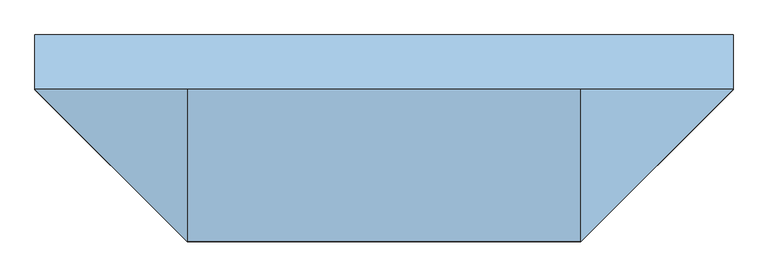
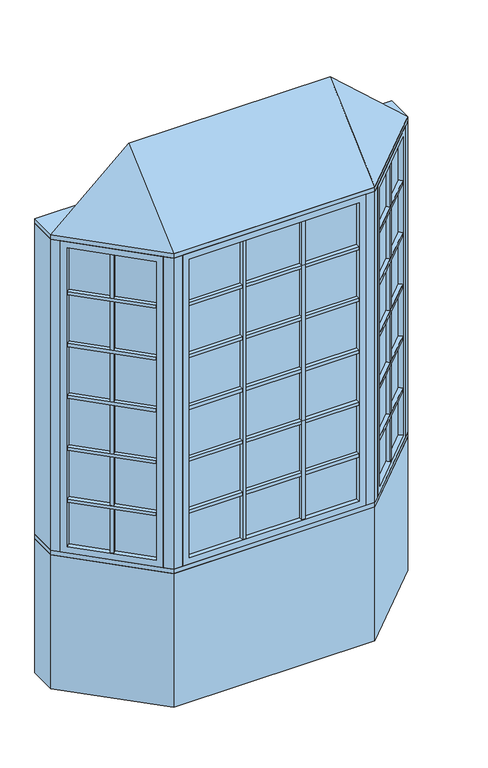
"""IFC4 building model written with IfcOpenShell, lengths in millimetres: window geometry, Pollard_Windows_Tudor Casement Bows and Bays : AML-BAY 45 AFR0618-08-500_GC."""

from ifc_helpers import new_model, si_unit, frame, origin, origin_with_axes, place, context, project, spatial, polyline, outline, extrude, faceted_brep, source, transform, mapped, element, save


def window_09736f41(model_context):
    return source(origin(), model_context, "Body", "SolidModel", [
        extrude(outline(polyline([(609.3614193, -437.1108753), (593.8050701, -421.5545261), (901.616171, -113.7434252), (917.1725202, -129.2997743), (609.3614193, -437.1108753)])), frame((0.0, 0.0, 1690.998), z_axis=(0.0, 0.0, 1.0), x_axis=(1.0, 0.0, 0.0)), (0.0, 0.0, 1.0), 18.0),
        extrude(outline(polyline([(590.2129677, -417.9624236), (574.6566185, -402.4060744), (882.4677194, -94.5949735), (898.0240686, -110.1513227), (590.2129677, -417.9624236)])), frame((0.0, 0.0, 1690.998), z_axis=(0.0, 0.0, 1.0), x_axis=(1.0, 0.0, 0.0)), (0.0, 0.0, 1.0), 18.0),
        extrude(outline(polyline([(609.3614193, -437.1108753), (593.8050701, -421.5545261), (901.616171, -113.7434252), (917.1725202, -129.2997743), (609.3614193, -437.1108753)])), frame((0.0, 0.0, 1090.998), z_axis=(0.0, 0.0, 1.0), x_axis=(1.0, 0.0, 0.0)), (0.0, 0.0, 1.0), 18.0),
        extrude(outline(polyline([(590.2129677, -417.9624236), (574.6566185, -402.4060744), (882.4677194, -94.5949735), (898.0240686, -110.1513227), (590.2129677, -417.9624236)])), frame((0.0, 0.0, 1090.998), z_axis=(0.0, 0.0, 1.0), x_axis=(1.0, 0.0, 0.0)), (0.0, 0.0, 1.0), 18.0),
        extrude(outline(polyline([(609.3614193, -437.1108753), (593.8050701, -421.5545261), (901.616171, -113.7434252), (917.1725202, -129.2997743), (609.3614193, -437.1108753)])), frame((0.0, 0.0, 1390.998), z_axis=(0.0, 0.0, 1.0), x_axis=(1.0, 0.0, 0.0)), (0.0, 0.0, 1.0), 18.0),
        extrude(outline(polyline([(590.2129677, -417.9624236), (574.6566185, -402.4060744), (882.4677194, -94.5949735), (898.0240686, -110.1513227), (590.2129677, -417.9624236)])), frame((0.0, 0.0, 1390.998), z_axis=(0.0, 0.0, 1.0), x_axis=(1.0, 0.0, 0.0)), (0.0, 0.0, 1.0), 18.0),
        extrude(outline(polyline([(609.3614193, -437.1108753), (593.8050701, -421.5545261), (901.616171, -113.7434252), (917.1725202, -129.2997743), (609.3614193, -437.1108753)])), frame((0.0, 0.0, 1990.998), z_axis=(0.0, 0.0, 1.0), x_axis=(1.0, 0.0, 0.0)), (0.0, 0.0, 1.0), 18.0),
        extrude(outline(polyline([(590.2129677, -417.9624236), (574.6566185, -402.4060744), (882.4677194, -94.5949735), (898.0240686, -110.1513227), (590.2129677, -417.9624236)])), frame((0.0, 0.0, 1990.998), z_axis=(0.0, 0.0, 1.0), x_axis=(1.0, 0.0, 0.0)), (0.0, 0.0, 1.0), 18.0),
        extrude(outline(polyline([(609.3614193, -437.1108753), (593.8050701, -421.5545261), (901.616171, -113.7434252), (917.1725202, -129.2997743), (609.3614193, -437.1108753)])), frame((0.0, 0.0, 2290.998), z_axis=(0.0, 0.0, 1.0), x_axis=(1.0, 0.0, 0.0)), (0.0, 0.0, 1.0), 18.0),
        extrude(outline(polyline([(590.2129677, -417.9624236), (574.6566185, -402.4060744), (882.4677194, -94.5949735), (898.0240686, -110.1513227), (590.2129677, -417.9624236)])), frame((0.0, 0.0, 2290.998), z_axis=(0.0, 0.0, 1.0), x_axis=(1.0, 0.0, 0.0)), (0.0, 0.0, 1.0), 18.0),
        extrude(outline(polyline([(754.0745816, -261.2850146), (769.6309308, -276.8413638), (756.9030087, -289.5692858), (741.3466595, -274.0129366), (754.0745816, -261.2850146)])), frame((0.0, 0.0, 835.8628), z_axis=(0.0, 0.0, 1.0), x_axis=(1.0, 0.0, 0.0)), (0.0, 0.0, 1.0), 1728.2704),
        extrude(outline(polyline([(750.4824791, -257.6929121), (737.7545571, -270.4208342), (722.1982079, -254.864485), (734.92613, -242.1365629), (750.4824791, -257.6929121)])), frame((0.0, 0.0, 835.8628), z_axis=(0.0, 0.0, 1.0), x_axis=(1.0, 0.0, 0.0)), (0.0, 0.0, 1.0), 1728.2704),
        extrude(outline(polyline([(910.5964271, -104.763169), (584.824814, -430.5347822), (581.2327115, -426.9426797), (907.0043247, -101.1710666), (910.5964271, -104.763169)])), frame((0.0, 0.0, 823.1628), z_axis=(0.0, 0.0, 1.0), x_axis=(1.0, 0.0, 0.0)), (0.0, 0.0, 1.0), 1753.6704),
        faceted_brep([(901.616171, -113.7434252, 835.8628), (919.5766833, -131.7039374, 835.8628), (919.5766833, -131.7039374, 2564.1332), (901.616171, -113.7434252, 2564.1332), (907.0043247, -101.1710666, 823.1628), (910.5964271, -104.763169, 823.1628), (910.5964271, -104.763169, 2576.8332), (907.0043247, -101.1710666, 2576.8332), (880.0635563, -92.1908105, 835.8628), (898.0240686, -110.1513227, 835.8628), (898.0240686, -110.1513227, 2564.1332), (880.0635563, -92.1908105, 2564.1332), (944.9369265, -106.3436941, 799.998), (905.4237996, -66.8305672, 799.998), (905.4237996, -66.8305672, 2599.998), (944.9369265, -106.3436941, 2599.998), (611.7655823, -439.5150383, 2564.1332), (593.8050701, -421.5545261, 2564.1332), (584.824814, -430.5347822, 2576.8332), (581.2327115, -426.9426797, 2576.8332), (590.2129677, -417.9624236, 2564.1332), (572.2524554, -400.0019114, 2564.1332), (546.8922121, -425.3621547, 2599.998), (586.4053391, -464.8752816, 2599.998), (611.7655823, -439.5150383, 835.8628), (593.8050701, -421.5545261, 835.8628), (584.824814, -430.5347822, 823.1628), (581.2327115, -426.9426797, 823.1628), (590.2129677, -417.9624236, 835.8628), (572.2524554, -400.0019114, 835.8628), (546.8922121, -425.3621547, 799.998), (586.4053391, -464.8752816, 799.998)], [[[0, 1, 2, 3]], [[4, 5, 6, 7]], [[8, 9, 10, 11]], [[12, 13, 14, 15]], [[3, 2, 16, 17]], [[7, 6, 18, 19]], [[11, 10, 20, 21]], [[15, 14, 22, 23]], [[17, 16, 24, 25]], [[19, 18, 26, 27]], [[21, 20, 28, 29]], [[23, 22, 30, 31]], [[25, 24, 1, 0]], [[5, 26, 18, 6], [3, 17, 25, 0]], [[27, 26, 5, 4]], [[7, 19, 27, 4], [9, 28, 20, 10]], [[29, 28, 9, 8]], [[13, 30, 22, 14], [11, 21, 29, 8]], [[31, 30, 13, 12]], [[15, 23, 31, 12], [1, 24, 16, 2]]]),
        extrude(outline(polyline([(171.2952, -474.8306207), (171.2952, -496.8306207), (153.2952, -496.8306207), (153.2952, -474.8306207), (171.2952, -474.8306207)])), frame((0.0, 0.0, 835.8628), z_axis=(0.0, 0.0, 1.0), x_axis=(1.0, 0.0, 0.0)), (0.0, 0.0, 1.0), 1728.2704),
        extrude(outline(polyline([(171.2952, -469.7506207), (153.2952, -469.7506207), (153.2952, -447.7506207), (171.2952, -447.7506207), (171.2952, -469.7506207)])), frame((0.0, 0.0, 835.8628), z_axis=(0.0, 0.0, 1.0), x_axis=(1.0, 0.0, 0.0)), (0.0, 0.0, 1.0), 1728.2704),
        extrude(outline(polyline([(-153.2952, -474.8306207), (-153.2952, -496.8306207), (-171.2952, -496.8306207), (-171.2952, -474.8306207), (-153.2952, -474.8306207)])), frame((0.0, 0.0, 835.8628), z_axis=(0.0, 0.0, 1.0), x_axis=(1.0, 0.0, 0.0)), (0.0, 0.0, 1.0), 1728.2704),
        extrude(outline(polyline([(-153.2952, -469.7506207), (-171.2952, -469.7506207), (-171.2952, -447.7506207), (-153.2952, -447.7506207), (-153.2952, -469.7506207)])), frame((0.0, 0.0, 835.8628), z_axis=(0.0, 0.0, 1.0), x_axis=(1.0, 0.0, 0.0)), (0.0, 0.0, 1.0), 1728.2704),
        extrude(outline(polyline([(-465.1852, -496.8306207), (-465.1852, -474.8306207), (465.1852, -474.8306207), (465.1852, -496.8306207), (-465.1852, -496.8306207)])), frame((0.0, 0.0, 1090.998), z_axis=(0.0, 0.0, 1.0), x_axis=(1.0, 0.0, 0.0)), (0.0, 0.0, 1.0), 18.0),
        extrude(outline(polyline([(-465.1852, -469.7506207), (-465.1852, -447.7506207), (465.1852, -447.7506207), (465.1852, -469.7506207), (-465.1852, -469.7506207)])), frame((0.0, 0.0, 1090.998), z_axis=(0.0, 0.0, 1.0), x_axis=(1.0, 0.0, 0.0)), (0.0, 0.0, 1.0), 18.0),
        extrude(outline(polyline([(-465.1852, -496.8306207), (-465.1852, -474.8306207), (465.1852, -474.8306207), (465.1852, -496.8306207), (-465.1852, -496.8306207)])), frame((0.0, 0.0, 1390.998), z_axis=(0.0, 0.0, 1.0), x_axis=(1.0, 0.0, 0.0)), (0.0, 0.0, 1.0), 18.0),
        extrude(outline(polyline([(-465.1852, -469.7506207), (-465.1852, -447.7506207), (465.1852, -447.7506207), (465.1852, -469.7506207), (-465.1852, -469.7506207)])), frame((0.0, 0.0, 1390.998), z_axis=(0.0, 0.0, 1.0), x_axis=(1.0, 0.0, 0.0)), (0.0, 0.0, 1.0), 18.0),
        extrude(outline(polyline([(-465.1852, -496.8306207), (-465.1852, -474.8306207), (465.1852, -474.8306207), (465.1852, -496.8306207), (-465.1852, -496.8306207)])), frame((0.0, 0.0, 1690.998), z_axis=(0.0, 0.0, 1.0), x_axis=(1.0, 0.0, 0.0)), (0.0, 0.0, 1.0), 18.0),
        extrude(outline(polyline([(-465.1852, -469.7506207), (-465.1852, -447.7506207), (465.1852, -447.7506207), (465.1852, -469.7506207), (-465.1852, -469.7506207)])), frame((0.0, 0.0, 1690.998), z_axis=(0.0, 0.0, 1.0), x_axis=(1.0, 0.0, 0.0)), (0.0, 0.0, 1.0), 18.0),
        extrude(outline(polyline([(-465.1852, -496.8306207), (-465.1852, -474.8306207), (465.1852, -474.8306207), (465.1852, -496.8306207), (-465.1852, -496.8306207)])), frame((0.0, 0.0, 1990.998), z_axis=(0.0, 0.0, 1.0), x_axis=(1.0, 0.0, 0.0)), (0.0, 0.0, 1.0), 18.0),
        extrude(outline(polyline([(-465.1852, -469.7506207), (-465.1852, -447.7506207), (465.1852, -447.7506207), (465.1852, -469.7506207), (-465.1852, -469.7506207)])), frame((0.0, 0.0, 1990.998), z_axis=(0.0, 0.0, 1.0), x_axis=(1.0, 0.0, 0.0)), (0.0, 0.0, 1.0), 18.0),
        extrude(outline(polyline([(-917.1725202, -129.2997743), (-901.616171, -113.7434252), (-593.8050701, -421.5545261), (-609.3614193, -437.1108753), (-917.1725202, -129.2997743)])), frame((0.0, 0.0, 1090.998), z_axis=(0.0, 0.0, 1.0), x_axis=(1.0, 0.0, 0.0)), (0.0, 0.0, 1.0), 18.0),
        extrude(outline(polyline([(-898.0240686, -110.1513227), (-882.4677194, -94.5949735), (-574.6566185, -402.4060744), (-590.2129677, -417.9624236), (-898.0240686, -110.1513227)])), frame((0.0, 0.0, 1090.998), z_axis=(0.0, 0.0, 1.0), x_axis=(1.0, 0.0, 0.0)), (0.0, 0.0, 1.0), 18.0),
        extrude(outline(polyline([(-917.1725202, -129.2997743), (-901.616171, -113.7434252), (-593.8050701, -421.5545261), (-609.3614193, -437.1108753), (-917.1725202, -129.2997743)])), frame((0.0, 0.0, 1390.998), z_axis=(0.0, 0.0, 1.0), x_axis=(1.0, 0.0, 0.0)), (0.0, 0.0, 1.0), 18.0),
        extrude(outline(polyline([(-898.0240686, -110.1513227), (-882.4677194, -94.5949735), (-574.6566185, -402.4060744), (-590.2129677, -417.9624236), (-898.0240686, -110.1513227)])), frame((0.0, 0.0, 1390.998), z_axis=(0.0, 0.0, 1.0), x_axis=(1.0, 0.0, 0.0)), (0.0, 0.0, 1.0), 18.0),
        extrude(outline(polyline([(-917.1725202, -129.2997743), (-901.616171, -113.7434252), (-593.8050701, -421.5545261), (-609.3614193, -437.1108753), (-917.1725202, -129.2997743)])), frame((0.0, 0.0, 1690.998), z_axis=(0.0, 0.0, 1.0), x_axis=(1.0, 0.0, 0.0)), (0.0, 0.0, 1.0), 18.0),
        extrude(outline(polyline([(-898.0240686, -110.1513227), (-882.4677194, -94.5949735), (-574.6566185, -402.4060744), (-590.2129677, -417.9624236), (-898.0240686, -110.1513227)])), frame((0.0, 0.0, 1690.998), z_axis=(0.0, 0.0, 1.0), x_axis=(1.0, 0.0, 0.0)), (0.0, 0.0, 1.0), 18.0),
        extrude(outline(polyline([(-917.1725202, -129.2997743), (-901.616171, -113.7434252), (-593.8050701, -421.5545261), (-609.3614193, -437.1108753), (-917.1725202, -129.2997743)])), frame((0.0, 0.0, 1990.998), z_axis=(0.0, 0.0, 1.0), x_axis=(1.0, 0.0, 0.0)), (0.0, 0.0, 1.0), 18.0),
        extrude(outline(polyline([(-898.0240686, -110.1513227), (-882.4677194, -94.5949735), (-574.6566185, -402.4060744), (-590.2129677, -417.9624236), (-898.0240686, -110.1513227)])), frame((0.0, 0.0, 1990.998), z_axis=(0.0, 0.0, 1.0), x_axis=(1.0, 0.0, 0.0)), (0.0, 0.0, 1.0), 18.0),
        extrude(outline(polyline([(-917.1725202, -129.2997743), (-901.616171, -113.7434252), (-593.8050701, -421.5545261), (-609.3614193, -437.1108753), (-917.1725202, -129.2997743)])), frame((0.0, 0.0, 2290.998), z_axis=(0.0, 0.0, 1.0), x_axis=(1.0, 0.0, 0.0)), (0.0, 0.0, 1.0), 18.0),
        extrude(outline(polyline([(-898.0240686, -110.1513227), (-882.4677194, -94.5949735), (-574.6566185, -402.4060744), (-590.2129677, -417.9624236), (-898.0240686, -110.1513227)])), frame((0.0, 0.0, 2290.998), z_axis=(0.0, 0.0, 1.0), x_axis=(1.0, 0.0, 0.0)), (0.0, 0.0, 1.0), 18.0),
        extrude(outline(polyline([(-465.1852, -496.8306207), (-465.1852, -474.8306207), (465.1852, -474.8306207), (465.1852, -496.8306207), (-465.1852, -496.8306207)])), frame((0.0, 0.0, 2290.998), z_axis=(0.0, 0.0, 1.0), x_axis=(1.0, 0.0, 0.0)), (0.0, 0.0, 1.0), 18.0),
        extrude(outline(polyline([(-465.1852, -469.7506207), (-465.1852, -447.7506207), (465.1852, -447.7506207), (465.1852, -469.7506207), (-465.1852, -469.7506207)])), frame((0.0, 0.0, 2290.998), z_axis=(0.0, 0.0, 1.0), x_axis=(1.0, 0.0, 0.0)), (0.0, 0.0, 1.0), 18.0),
        extrude(outline(polyline([(-741.3466595, -274.0129366), (-756.9030087, -289.5692858), (-769.6309308, -276.8413638), (-754.0745816, -261.2850146), (-741.3466595, -274.0129366)])), frame((0.0, 0.0, 835.8628), z_axis=(0.0, 0.0, 1.0), x_axis=(1.0, 0.0, 0.0)), (0.0, 0.0, 1.0), 1728.2704),
        extrude(outline(polyline([(-737.7545571, -270.4208342), (-750.4824791, -257.6929121), (-734.92613, -242.1365629), (-722.1982079, -254.864485), (-737.7545571, -270.4208342)])), frame((0.0, 0.0, 835.8628), z_axis=(0.0, 0.0, 1.0), x_axis=(1.0, 0.0, 0.0)), (0.0, 0.0, 1.0), 1728.2704),
        extrude(outline(polyline([(-584.824814, -430.5347822), (-910.5964271, -104.763169), (-907.0043247, -101.1710666), (-581.2327115, -426.9426797), (-584.824814, -430.5347822)])), frame((0.0, 0.0, 823.1628), z_axis=(0.0, 0.0, 1.0), x_axis=(1.0, 0.0, 0.0)), (0.0, 0.0, 1.0), 1753.6704),
        faceted_brep([(-590.2129677, -417.9624236, 2564.1332), (-572.2524554, -400.0019114, 2564.1332), (-572.2524554, -400.0019114, 835.8628), (-590.2129677, -417.9624236, 835.8628), (-584.824814, -430.5347822, 2576.8332), (-581.2327115, -426.9426797, 2576.8332), (-581.2327115, -426.9426797, 823.1628), (-584.824814, -430.5347822, 823.1628), (-611.7655823, -439.5150383, 2564.1332), (-593.8050701, -421.5545261, 2564.1332), (-593.8050701, -421.5545261, 835.8628), (-611.7655823, -439.5150383, 835.8628), (-546.8922121, -425.3621547, 2599.998), (-586.4053391, -464.8752816, 2599.998), (-586.4053391, -464.8752816, 799.998), (-546.8922121, -425.3621547, 799.998), (-880.0635563, -92.1908105, 835.8628), (-898.0240686, -110.1513227, 835.8628), (-907.0043247, -101.1710666, 823.1628), (-910.5964271, -104.763169, 823.1628), (-901.616171, -113.7434252, 835.8628), (-919.5766833, -131.7039374, 835.8628), (-944.9369265, -106.3436941, 799.998), (-905.4237996, -66.8305672, 799.998), (-880.0635563, -92.1908105, 2564.1332), (-898.0240686, -110.1513227, 2564.1332), (-907.0043247, -101.1710666, 2576.8332), (-910.5964271, -104.763169, 2576.8332), (-901.616171, -113.7434252, 2564.1332), (-919.5766833, -131.7039374, 2564.1332), (-944.9369265, -106.3436941, 2599.998), (-905.4237996, -66.8305672, 2599.998)], [[[0, 1, 2, 3]], [[4, 5, 6, 7]], [[8, 9, 10, 11]], [[12, 13, 14, 15]], [[3, 2, 16, 17]], [[7, 6, 18, 19]], [[11, 10, 20, 21]], [[15, 14, 22, 23]], [[17, 16, 24, 25]], [[19, 18, 26, 27]], [[21, 20, 28, 29]], [[23, 22, 30, 31]], [[15, 23, 31, 12], [1, 24, 16, 2]], [[25, 24, 1, 0]], [[5, 26, 18, 6], [3, 17, 25, 0]], [[27, 26, 5, 4]], [[7, 19, 27, 4], [9, 28, 20, 10]], [[29, 28, 9, 8]], [[13, 30, 22, 14], [11, 21, 29, 8]], [[31, 30, 13, 12]]]),
        extrude(outline(polyline([(477.8852, -474.8306207), (-477.8852, -474.8306207), (-477.8852, -469.7506207), (477.8852, -469.7506207), (477.8852, -474.8306207)])), frame((0.0, 0.0, 823.1628), z_axis=(0.0, 0.0, 1.0), x_axis=(1.0, 0.0, 0.0)), (0.0, 0.0, 1.0), 1753.6704),
        faceted_brep([(465.1852, -474.8306207, 835.8628), (465.1852, -500.2306207, 835.8628), (465.1852, -500.2306207, 2564.1332), (465.1852, -474.8306207, 2564.1332), (477.8852, -469.7506207, 823.1628), (477.8852, -474.8306207, 823.1628), (477.8852, -474.8306207, 2576.8332), (477.8852, -469.7506207, 2576.8332), (465.1852, -444.3506207, 835.8628), (465.1852, -469.7506207, 835.8628), (465.1852, -469.7506207, 2564.1332), (465.1852, -444.3506207, 2564.1332), (501.05, -500.2306207, 799.998), (501.05, -444.3506207, 799.998), (501.05, -444.3506207, 2599.998), (501.05, -500.2306207, 2599.998), (-465.1852, -500.2306207, 2564.1332), (-465.1852, -474.8306207, 2564.1332), (-477.8852, -474.8306207, 2576.8332), (-477.8852, -469.7506207, 2576.8332), (-465.1852, -469.7506207, 2564.1332), (-465.1852, -444.3506207, 2564.1332), (-501.05, -444.3506207, 2599.998), (-501.05, -500.2306207, 2599.998), (-465.1852, -500.2306207, 835.8628), (-465.1852, -474.8306207, 835.8628), (-477.8852, -474.8306207, 823.1628), (-477.8852, -469.7506207, 823.1628), (-465.1852, -469.7506207, 835.8628), (-465.1852, -444.3506207, 835.8628), (-501.05, -444.3506207, 799.998), (-501.05, -500.2306207, 799.998)], [[[0, 1, 2, 3]], [[4, 5, 6, 7]], [[8, 9, 10, 11]], [[12, 13, 14, 15]], [[3, 2, 16, 17]], [[7, 6, 18, 19]], [[11, 10, 20, 21]], [[15, 14, 22, 23]], [[17, 16, 24, 25]], [[19, 18, 26, 27]], [[21, 20, 28, 29]], [[23, 22, 30, 31]], [[15, 23, 31, 12], [1, 24, 16, 2]], [[25, 24, 1, 0]], [[5, 26, 18, 6], [3, 17, 25, 0]], [[27, 26, 5, 4]], [[7, 19, 27, 4], [9, 28, 20, 10]], [[29, 28, 9, 8]], [[13, 30, 22, 14], [11, 21, 29, 8]], [[31, 30, 13, 12]]]),
        faceted_brep([(976.5, -74.7806207, 2625.398), (551.05, -500.2306207, 2625.398), (-551.05, -500.2306207, 2625.398), (-976.5, -74.7806207, 2625.398), (-551.05, -74.7806207, 3006.398), (551.05, -74.7806207, 3006.398)], [[[0, 1, 2, 3]], [[3, 2, 4]], [[2, 1, 5, 4]], [[1, 0, 5]], [[0, 3, 4, 5]]]),
        extrude(outline(polyline([(-976.5, 77.6193793), (976.5, 77.6193793), (976.5, -74.7806207), (551.05, -500.2306207), (-551.05, -500.2306207), (-976.5, -74.7806207), (-976.5, 77.6193793)])), frame((0.0, 0.0, 2599.998), z_axis=(0.0, 0.0, 1.0), x_axis=(1.0, 0.0, 0.0)), (0.0, 0.0, 1.0), 25.4),
        extrude(outline(polyline([(-976.5, -74.7806207), (-976.5, 77.6193793), (-913.3738531, 77.6193793), (-913.3738531, -74.7806207), (-944.9369265, -106.3436941), (-976.5, -74.7806207)])), frame((0.0, 0.0, 799.998), z_axis=(0.0, 0.0, 1.0), x_axis=(1.0, 0.0, 0.0)), (0.0, 0.0, 1.0), 1800.0),
        extrude(outline(polyline([(976.5, 77.6193793), (976.5, -74.7806207), (944.9369265, -106.3436941), (913.3738531, -74.7806207), (913.3738531, 77.6193793), (976.5, 77.6193793)])), frame((0.0, 0.0, 799.998), z_axis=(0.0, 0.0, 1.0), x_axis=(1.0, 0.0, 0.0)), (0.0, 0.0, 1.0), 1800.0),
        extrude(outline(polyline([(551.05, -500.2306207), (501.05, -500.2306207), (501.05, -450.2306207), (530.3393219, -450.2306207), (551.05, -429.5199425), (586.4053391, -464.8752816), (551.05, -500.2306207)])), frame((0.0, 0.0, 799.998), z_axis=(0.0, 0.0, 1.0), x_axis=(1.0, 0.0, 0.0)), (0.0, 0.0, 1.0), 1800.0),
        extrude(outline(polyline([(-551.05, -500.2306207), (-586.4053391, -464.8752816), (-551.05, -429.5199425), (-530.3393219, -450.2306207), (-501.05, -450.2306207), (-501.05, -500.2306207), (-551.05, -500.2306207)])), frame((0.0, 0.0, 799.998), z_axis=(0.0, 0.0, 1.0), x_axis=(1.0, 0.0, 0.0)), (0.0, 0.0, 1.0), 1800.0),
        extrude(outline(polyline([(-551.05, -500.2306207), (-976.5, -74.7806207), (-976.5, 77.6193793), (-913.3738531, 77.6193793), (-487.9238531, -347.8306207), (487.9238531, -347.8306207), (913.3738531, 77.6193793), (976.5, 77.6193793), (976.5, -74.7806207), (551.05, -500.2306207), (-551.05, -500.2306207)])), frame((0.0, 0.0, 774.598), z_axis=(0.0, 0.0, 1.0), x_axis=(1.0, 0.0, 0.0)), (0.0, 0.0, 1.0), 25.4),
        extrude(outline(polyline([(-976.5, -74.7806207), (-976.5, 77.6193793), (-913.3738531, 77.6193793), (-487.9238531, -347.8306207), (487.9238531, -347.8306207), (913.3738531, 77.6193793), (976.5, 77.6193793), (976.5, -74.7806207), (551.05, -500.2306207), (-551.05, -500.2306207), (-976.5, -74.7806207)])), origin_with_axes(), (0.0, 0.0, 1.0), 774.598),
    ])


if __name__ == "__main__":
    model = new_model("IFC4")
    model_context = context("Model", 3, world=origin())
    ifc_project = project(units=[si_unit("LENGTHUNIT", "METRE", prefix="MILLI")], contexts=[model_context])
    site = spatial("IfcSite", under=ifc_project)
    building = spatial("IfcBuilding", under=site)
    placement = place(None, origin())
    window_shape = window_09736f41(model_context)
    element("IfcWindow", 1, ObjectType="Pollard_Windows_Tudor Casement Bows and Bays : AML-BAY 45 AFR0618-08-500_GC", at=placement, inside=building, context=model_context, shape_type="MappedRepresentation", body=[
        mapped(window_shape, transform((0.0, 0.0, 0.0), x_axis=(1.0, 0.0, 0.0), y_axis=(0.0, 1.0, 0.0), z_axis=(0.0, 0.0, 1.0))),
    ])
    save(model, "model.ifc")
